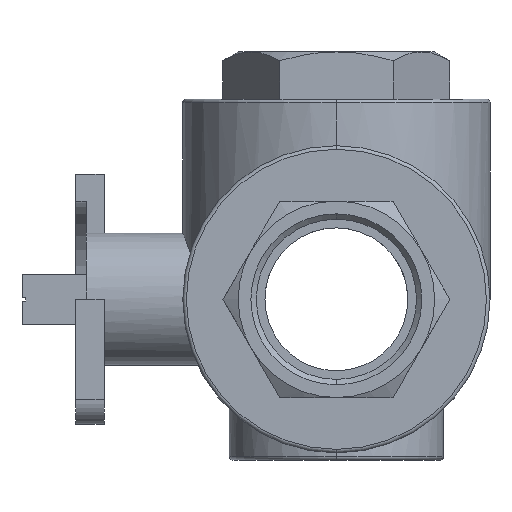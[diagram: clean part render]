
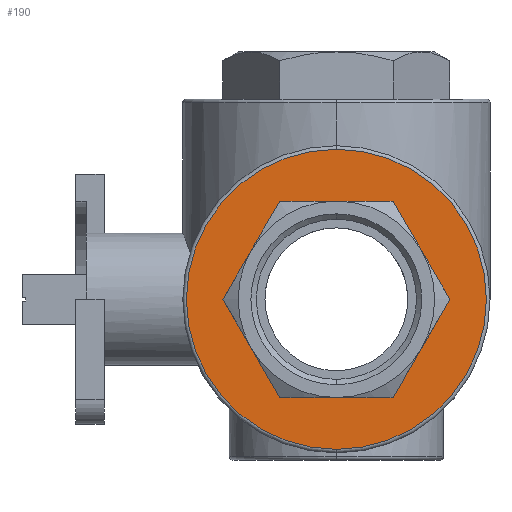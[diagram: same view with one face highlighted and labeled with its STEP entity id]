
A CAD part, left-side view. The second image highlights one B-rep face of the part: STEP entity #190.
In plain terms, the highlighted planar face has unit normal (-1, 0, 0).
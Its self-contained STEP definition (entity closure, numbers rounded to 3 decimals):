
#117 = DIRECTION ( 'NONE',  ( 0., 0., 1. ) ) ;
#118 = DIRECTION ( 'NONE',  ( -1., 0., 0. ) ) ;
#119 = CARTESIAN_POINT ( 'NONE',  ( -56., 0., 0. ) ) ;
#123 = DIRECTION ( 'NONE',  ( 0., -1., 0. ) ) ;
#130 = CARTESIAN_POINT ( 'NONE',  ( -56., 0., 27.5 ) ) ;
#190 = ADVANCED_FACE ( 'NONE', ( #3860, #3855 ), #1899, .T. ) ;
#283 = AXIS2_PLACEMENT_3D ( 'NONE', #1907, #1898, #1897 ) ;
#346 = AXIS2_PLACEMENT_3D ( 'NONE', #119, #118, #117 ) ;
#403 = AXIS2_PLACEMENT_3D ( 'NONE', #1266, #1268, #1269 ) ;
#1266 = CARTESIAN_POINT ( 'NONE',  ( -56., 0., 0. ) ) ;
#1268 = DIRECTION ( 'NONE',  ( -1., 0., 0. ) ) ;
#1269 = DIRECTION ( 'NONE',  ( 0., 0., 1. ) ) ;
#1383 = CARTESIAN_POINT ( 'NONE',  ( -56., -23.816, -13.75 ) ) ;
#1384 = DIRECTION ( 'NONE',  ( 0., 0.5, -0.866 ) ) ;
#1410 = CARTESIAN_POINT ( 'NONE',  ( -56., 0., -27.5 ) ) ;
#1411 = DIRECTION ( 'NONE',  ( 0., 1., 0. ) ) ;
#1426 = CARTESIAN_POINT ( 'NONE',  ( -56., 23.816, -13.75 ) ) ;
#1427 = DIRECTION ( 'NONE',  ( 0., 0.5, 0.866 ) ) ;
#1439 = CARTESIAN_POINT ( 'NONE',  ( -56., -23.816, 13.75 ) ) ;
#1442 = DIRECTION ( 'NONE',  ( 0., -0.5, -0.866 ) ) ;
#1470 = CARTESIAN_POINT ( 'NONE',  ( -56., 23.816, 13.75 ) ) ;
#1471 = DIRECTION ( 'NONE',  ( 0., -0.5, 0.866 ) ) ;
#1897 = DIRECTION ( 'NONE',  ( 0., 0., 1. ) ) ;
#1898 = DIRECTION ( 'NONE',  ( -1., 0., 0. ) ) ;
#1899 = PLANE ( 'NONE',  #283 ) ;
#1907 = CARTESIAN_POINT ( 'NONE',  ( -56., 0., 0. ) ) ;
#2031 = VERTEX_POINT ( 'NONE', #4267 ) ;
#2039 = VERTEX_POINT ( 'NONE', #4098 ) ;
#2053 = VERTEX_POINT ( 'NONE', #4175 ) ;
#2058 = VERTEX_POINT ( 'NONE', #4169 ) ;
#2072 = VERTEX_POINT ( 'NONE', #4156 ) ;
#2078 = VERTEX_POINT ( 'NONE', #4142 ) ;
#2080 = VERTEX_POINT ( 'NONE', #4145 ) ;
#2138 = VERTEX_POINT ( 'NONE', #4005 ) ;
#2174 = EDGE_CURVE ( 'NONE', #2039, #2031, #3087, .T. ) ;
#2176 = EDGE_CURVE ( 'NONE', #2080, #2138, #3094, .T. ) ;
#2334 = EDGE_CURVE ( 'NONE', #2138, #2080, #3300, .T. ) ;
#2358 = EDGE_CURVE ( 'NONE', #2058, #2078, #3322, .T. ) ;
#2362 = EDGE_CURVE ( 'NONE', #2078, #2072, #3313, .T. ) ;
#2365 = EDGE_CURVE ( 'NONE', #2072, #2053, #3326, .T. ) ;
#2370 = EDGE_CURVE ( 'NONE', #2031, #2058, #3330, .T. ) ;
#2375 = EDGE_CURVE ( 'NONE', #2053, #2039, #3333, .T. ) ;
#2446 = EDGE_LOOP ( 'NONE', ( #2907, #2906 ) ) ;
#2459 = EDGE_LOOP ( 'NONE', ( #2905, #2904, #2903, #2902, #2901, #2900 ) ) ;
#2900 = ORIENTED_EDGE ( 'NONE', *, *, #2365, .T. ) ;
#2901 = ORIENTED_EDGE ( 'NONE', *, *, #2362, .T. ) ;
#2902 = ORIENTED_EDGE ( 'NONE', *, *, #2358, .T. ) ;
#2903 = ORIENTED_EDGE ( 'NONE', *, *, #2370, .T. ) ;
#2904 = ORIENTED_EDGE ( 'NONE', *, *, #2174, .T. ) ;
#2905 = ORIENTED_EDGE ( 'NONE', *, *, #2375, .T. ) ;
#2906 = ORIENTED_EDGE ( 'NONE', *, *, #2334, .T. ) ;
#2907 = ORIENTED_EDGE ( 'NONE', *, *, #2176, .T. ) ;
#3082 = VECTOR ( 'NONE', #123, 1000. ) ;
#3087 = LINE ( 'NONE', #130, #3082 ) ;
#3094 = CIRCLE ( 'NONE', #346, 42. ) ;
#3300 = CIRCLE ( 'NONE', #403, 42. ) ;
#3313 = LINE ( 'NONE', #1410, #3324 ) ;
#3319 = VECTOR ( 'NONE', #1471, 1000. ) ;
#3322 = LINE ( 'NONE', #1383, #3323 ) ;
#3323 = VECTOR ( 'NONE', #1384, 1000. ) ;
#3324 = VECTOR ( 'NONE', #1411, 1000. ) ;
#3326 = LINE ( 'NONE', #1426, #3327 ) ;
#3327 = VECTOR ( 'NONE', #1427, 1000. ) ;
#3330 = LINE ( 'NONE', #1439, #3334 ) ;
#3333 = LINE ( 'NONE', #1470, #3319 ) ;
#3334 = VECTOR ( 'NONE', #1442, 1000. ) ;
#3855 = FACE_BOUND ( 'NONE', #2459, .T. ) ;
#3860 = FACE_OUTER_BOUND ( 'NONE', #2446, .T. ) ;
#4005 = CARTESIAN_POINT ( 'NONE',  ( -56., 0., -42. ) ) ;
#4098 = CARTESIAN_POINT ( 'NONE',  ( -56., 15.877, 27.5 ) ) ;
#4142 = CARTESIAN_POINT ( 'NONE',  ( -56., -15.877, -27.5 ) ) ;
#4145 = CARTESIAN_POINT ( 'NONE',  ( -56., 0., 42. ) ) ;
#4156 = CARTESIAN_POINT ( 'NONE',  ( -56., 15.877, -27.5 ) ) ;
#4169 = CARTESIAN_POINT ( 'NONE',  ( -56., -31.754, 0. ) ) ;
#4175 = CARTESIAN_POINT ( 'NONE',  ( -56., 31.754, 0. ) ) ;
#4267 = CARTESIAN_POINT ( 'NONE',  ( -56., -15.877, 27.5 ) ) ;
